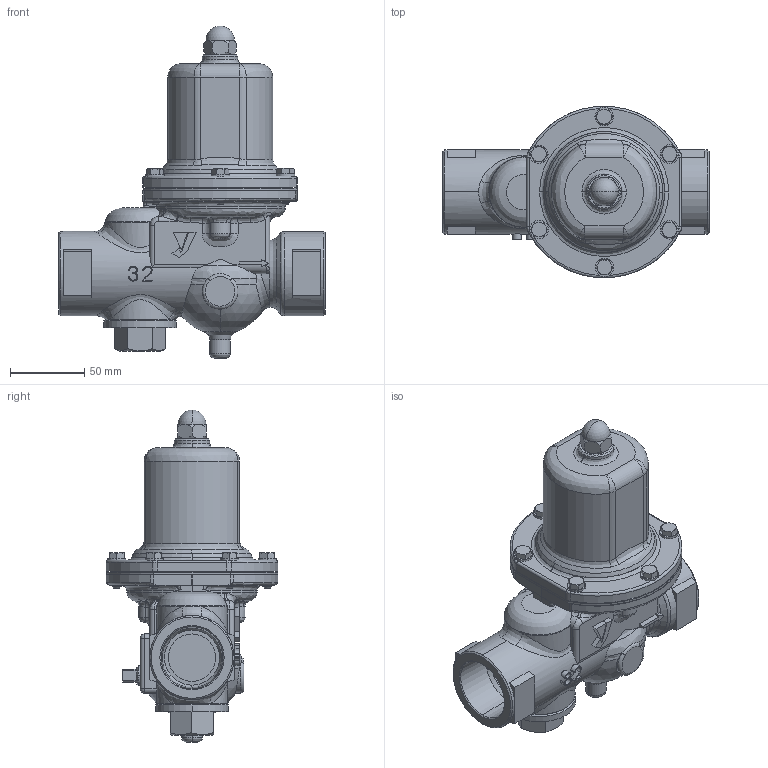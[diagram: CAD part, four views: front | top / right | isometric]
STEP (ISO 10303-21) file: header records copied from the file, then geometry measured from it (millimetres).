
FILE_DESCRIPTION( (''), '2;1');
FILE_NAME ('PC1276.13596.GD-28S-NE 32A_24178.stp','2025-06-10T15:52:15',(''),(''),'spGate 20.6.3 (****-****-****-****)','','');
FILE_SCHEMA (('AUTOMOTIVE_DESIGN'));
Length unit declared in the file: millimetre
Products named in the file (9): Assembly; ダイヤフラム　32-40A; 保護筒 32-40A; ストレーナキャップ32-40A; CP_''_JIS B 1183 六角袋ナット 3形 M''_705; CP_''_JIS B 1180 呼び径六角ボルト''_17166; プラグ3D; CP_平座金(ミ''_JIS B 1256 みがき丸 6_740; GD-28S-NE 32A 弁箱
Assembly tree (20 placements, depth 2):
  Assembly
    ダイヤフラム　32-40A
    保護筒 32-40A
    ストレーナキャップ32-40A
    CP_''_JIS B 1183 六角袋ナット 3形 M''_705
    CP_''_JIS B 1180 呼び径六角ボルト''_17166  x6
    プラグ3D  x3
    CP_平座金(ミ''_JIS B 1256 みがき丸 6_740  x6
    GD-28S-NE 32A 弁箱
Bounding box: 180 x 115.69 x 224.31 mm (x, y, z)
Volume: 1097349.7 mm3; surface area: 155330.6 mm2
Topology: 20 solids, 20 shells, 684 faces, 1631 edges, 1001 vertices
Faces by surface type: bspline 253, plane 223, cylinder 190, sphere 18
Entity records: 31484 total; most frequent: CARTESIAN_POINT 10755, ORIENTED_EDGE 2472, DIRECTION 1926, COLOUR_RGB 1750, PRESENTATION_STYLE_ASSIGNMENT 1750, STYLED_ITEM 1750, EDGE_CURVE 1236, DRAUGHTING_PRE_DEFINED_CURVE_FONT 1236
